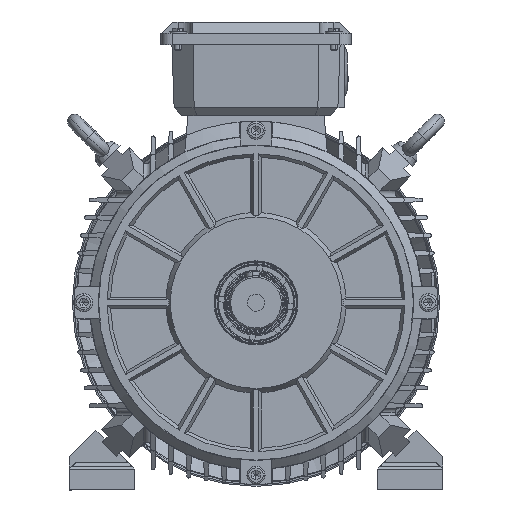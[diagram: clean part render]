
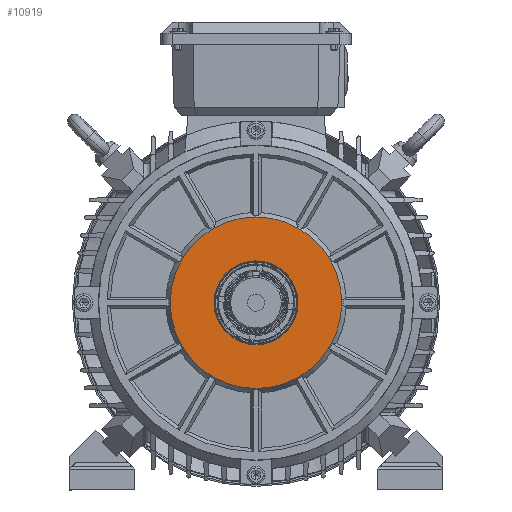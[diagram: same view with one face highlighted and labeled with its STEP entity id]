
A CAD part, left-side view. The second image highlights one B-rep face of the part: STEP entity #10919.
In plain terms, the highlighted planar face has unit normal (-1, 0, 0) as drawn and (0, 0, 1) by its records, which use the part's own axes.
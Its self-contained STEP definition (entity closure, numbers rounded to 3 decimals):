
#10863 = EDGE_LOOP ( 'NONE', ( #10865, #10869 ) ) ;
#10865 = ORIENTED_EDGE ( 'NONE', *, *, #10867, .T. ) ;
#10867 = EDGE_CURVE ( 'NONE', #114576, #114586, #119787, .T. ) ;
#10869 = ORIENTED_EDGE ( 'NONE', *, *, #114575, .T. ) ;
#10919 = ADVANCED_FACE ( 'NONE', ( #119851, #119849 ), #119848, .F. ) ;
#10923 = EDGE_LOOP ( 'NONE', ( #10924, #10926 ) ) ;
#10924 = ORIENTED_EDGE ( 'NONE', *, *, #11054, .F. ) ;
#10926 = ORIENTED_EDGE ( 'NONE', *, *, #114742, .F. ) ;
#11054 = EDGE_CURVE ( 'NONE', #114664, #114740, #120058, .T. ) ;
#83737 = CARTESIAN_POINT ( 'NONE',  ( -60.5, 0., 0. ) ) ;
#83738 = DIRECTION ( 'NONE',  ( 1., 0., 0. ) ) ;
#83739 = DIRECTION ( 'NONE',  ( 0., 0., 1. ) ) ;
#83740 = CARTESIAN_POINT ( 'NONE',  ( 0., 0., 0. ) ) ;
#83741 = AXIS2_PLACEMENT_3D ( 'NONE', #83740, #83739, #83738 ) ;
#83742 = CIRCLE ( 'NONE', #83741, 60.5 ) ;
#83771 = CARTESIAN_POINT ( 'NONE',  ( 60.5, 0., 0. ) ) ;
#83938 = CARTESIAN_POINT ( 'NONE',  ( 29.577, 0., 0. ) ) ;
#84046 = DIRECTION ( 'NONE',  ( 1., 0., 0. ) ) ;
#84047 = DIRECTION ( 'NONE',  ( 0., 0., 1. ) ) ;
#84048 = CARTESIAN_POINT ( 'NONE',  ( 0., 0., 0. ) ) ;
#84049 = AXIS2_PLACEMENT_3D ( 'NONE', #84048, #84047, #84046 ) ;
#84050 = CIRCLE ( 'NONE', #84049, 29.577 ) ;
#84052 = CARTESIAN_POINT ( 'NONE',  ( -29.577, 0., 0. ) ) ;
#114575 = EDGE_CURVE ( 'NONE', #114586, #114576, #83742, .T. ) ;
#114576 = VERTEX_POINT ( 'NONE', #83737 ) ;
#114586 = VERTEX_POINT ( 'NONE', #83771 ) ;
#114664 = VERTEX_POINT ( 'NONE', #83938 ) ;
#114740 = VERTEX_POINT ( 'NONE', #84052 ) ;
#114742 = EDGE_CURVE ( 'NONE', #114740, #114664, #84050, .T. ) ;
#119782 = DIRECTION ( 'NONE',  ( 1., 0., 0. ) ) ;
#119783 = DIRECTION ( 'NONE',  ( 0., 0., 1. ) ) ;
#119785 = CARTESIAN_POINT ( 'NONE',  ( 0., 0., 0. ) ) ;
#119786 = AXIS2_PLACEMENT_3D ( 'NONE', #119785, #119783, #119782 ) ;
#119787 = CIRCLE ( 'NONE', #119786, 60.5 ) ;
#119836 = DIRECTION ( 'NONE',  ( -1., 0., 0. ) ) ;
#119838 = DIRECTION ( 'NONE',  ( 0., 0., -1. ) ) ;
#119840 = AXIS2_PLACEMENT_3D ( 'NONE', #119846, #119838, #119836 ) ;
#119846 = CARTESIAN_POINT ( 'NONE',  ( 0., 29.577, 0. ) ) ;
#119848 = PLANE ( 'NONE',  #119840 ) ;
#119849 = FACE_OUTER_BOUND ( 'NONE', #10863, .T. ) ;
#119851 = FACE_BOUND ( 'NONE', #10923, .T. ) ;
#120058 = CIRCLE ( 'NONE', #120196, 29.577 ) ;
#120060 = CARTESIAN_POINT ( 'NONE',  ( 0., 0., 0. ) ) ;
#120192 = DIRECTION ( 'NONE',  ( 1., 0., 0. ) ) ;
#120194 = DIRECTION ( 'NONE',  ( 0., 0., 1. ) ) ;
#120196 = AXIS2_PLACEMENT_3D ( 'NONE', #120060, #120194, #120192 ) ;
